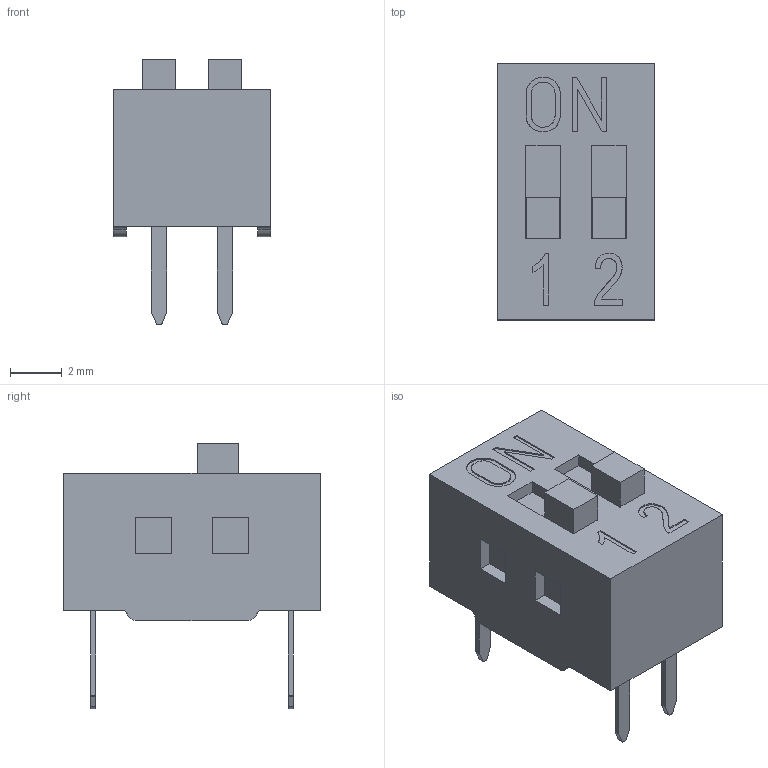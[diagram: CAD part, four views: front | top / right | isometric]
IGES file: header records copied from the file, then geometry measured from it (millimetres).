
Global section: file name: Filename.iges; native system: Open CASCADE 7.3; preprocessor: Open CASCADE IGES processor 7.3; date: 20200811.075220; units: millimetre
Bounding box: 6.08 x 9.9 x 10.25 mm (x, y, z)
Surface area: 806.8 mm2 (no closed solid volume)
Topology: 0 solids, 0 shells, 200 faces, 1038 edges, 1038 vertices
Faces by surface type: plane 154, revolution 24, bspline 22
